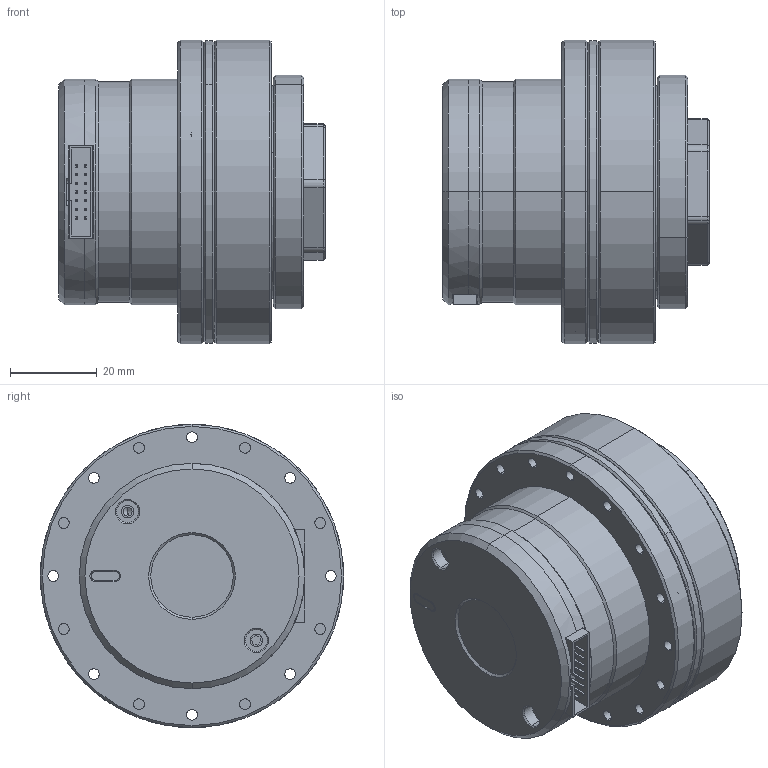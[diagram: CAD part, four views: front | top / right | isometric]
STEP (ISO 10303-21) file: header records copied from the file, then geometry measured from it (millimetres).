
FILE_DESCRIPTION (( 'STEP AP203' ), '1' );
FILE_NAME ('E30-H14-1B-100.STEP', '2021-10-19T07:58:04', ( 'lenovo' ), ( '' ), 'SwSTEP 2.0', 'SolidWorks 2016', '' );
FILE_SCHEMA (( 'CONFIG_CONTROL_DESIGN' ));
Length unit declared in the file: millimetre
Products named in the file (23): 14郋俔渀釱; 柔轮SHD-14; NE30驱动控制面板; SHD-14交叉轴承外圈; 内六角圆柱头螺钉M3×8_M3×8; E30-H11-1B_008; SHD-14交叉轴承内圈; ﾄﾚﾁﾇﾔｲﾖｷﾂﾝｶ､M2.5｡ﾁ8_M2.5｡ﾁ8; NE30QD_011; SHD14蝠脫粣創-蚐猾-58x49x5; SHD-14熬厒ん_蕼偞; NE30綴裔郪璃; SHD-14蝠脫粣創黑芛; E30-H14-1B_002_蕼偞; ｦﾕ2.5｡ﾁ5ｵﾈｸﾟﾂﾝﾋｿ; ﾄﾚﾁﾇﾔｲﾖｷﾂﾝM2｡ﾁ5_M2｡ﾁ5; SHD-14-100; SHD-14-QDNE30; SHD-14蝠脫粣創_蕼偞; E30-H14-1B_001; E30-H14-1B-100; SHD-14-詩謫; NE30萇繚啣
Assembly tree (27 placements, depth 5):
  E30-H14-1B-100
    SHD-14-100
      SHD-14熬厒ん_蕼偞
        SHD-14蝠脫粣創_蕼偞
          SHD-14交叉轴承外圈
          SHD-14交叉轴承内圈
          SHD14蝠脫粣創-蚐猾-58x49x5
          SHD-14蝠脫粣創黑芛
          ﾄﾚﾁﾇﾔｲﾖｷﾂﾝM2｡ﾁ5_M2｡ﾁ5
        SHD-14-詩謫
        柔轮SHD-14
        内六角圆柱头螺钉M3×8_M3×8  x2
        ﾄﾚﾁﾇﾔｲﾖｷﾂﾝｶ､M2.5｡ﾁ8_M2.5｡ﾁ8  x4
      E30-H14-1B_002_蕼偞
    SHD-14-QDNE30
      E30-H14-1B_001
      NE30驱动控制面板
        NE30萇繚啣
        14郋俔渀釱
      NE30綴裔郪璃
        E30-H11-1B_008
        NE30QD_011
      ｦﾕ2.5｡ﾁ5ｵﾈｸﾟﾂﾝﾋｿ  x2
Bounding box: 61.5 x 70 x 70 mm (x, y, z)
Volume: 88529.2 mm3; surface area: 70960.6 mm2
Topology: 21 solids, 21 shells, 1167 faces, 2725 edges, 1682 vertices
Faces by surface type: plane 509, cylinder 444, cone 156, torus 58
Entity records: 33281 total; most frequent: DIRECTION 5698, CARTESIAN_POINT 5243, ORIENTED_EDGE 4950, EDGE_CURVE 2475, AXIS2_PLACEMENT_3D 2155, VERTEX_POINT 1540, VECTOR 1388, LINE 1388
